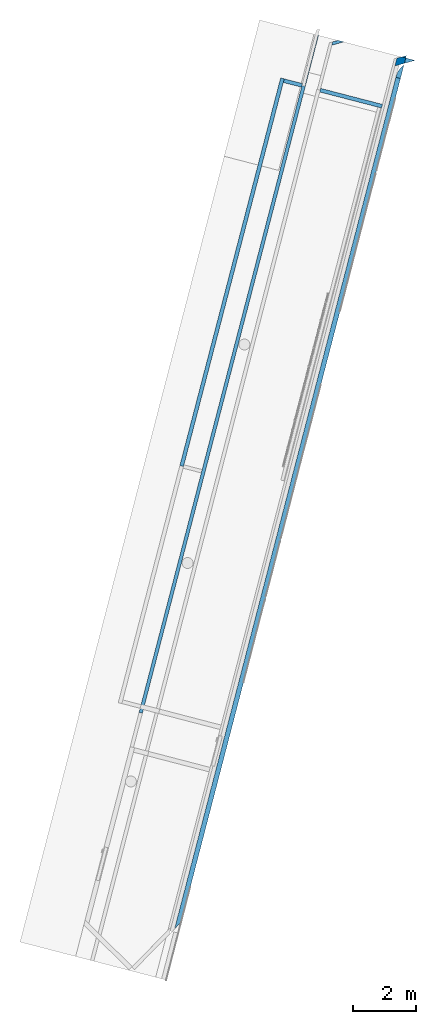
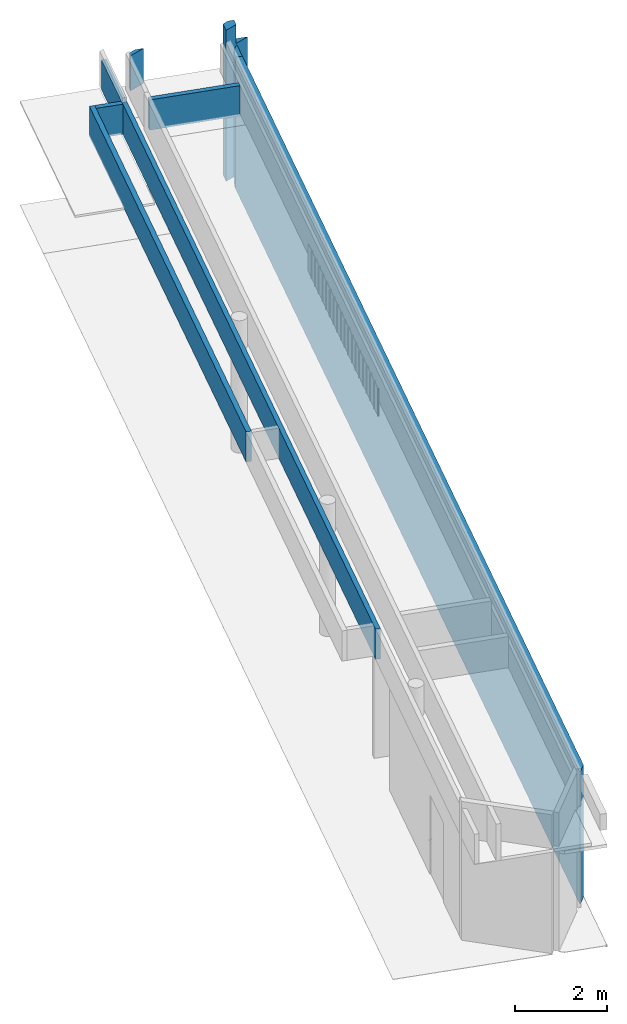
# One storey, part 8 of 9: 9 walls.
"""IFC2X3 building model written with IfcOpenShell, lengths in millimetres."""

from ifc_helpers import new_model, entity, si_unit, converted_unit, derived_unit, direction, frame, origin, origin_with_axes, place, context, subcontext, project, spatial, faceted_brep, material, layer, layer_set, type_object, element, save


model = new_model("IFC2X3")

# Units and contexts
plan_context = context("Plan", 3, precision=1e-05, world=origin_with_axes())
model_context = context("Model", 3, precision=0.01, world=origin(), true_north=direction((6.12323399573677e-17, 1.0)))
body_context = subcontext(model_context, "Body", "Model", "MODEL_VIEW")
ifc_project = project(units=[converted_unit("PLANEANGLEUNIT", "DEGREE", entity("IfcPositiveLengthMeasure", 0.0174532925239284), si_unit("PLANEANGLEUNIT", "RADIAN"), dimensions=[0, 0, 0, 0, 0, 0, 0]), si_unit("AREAUNIT", "SQUARE_METRE"), si_unit("LENGTHUNIT", "METRE", prefix="MILLI"), si_unit("MASSUNIT", "GRAM", prefix="KILO"), si_unit("POWERUNIT", "WATT"), si_unit("PRESSUREUNIT", "PASCAL", prefix="KILO"), si_unit("FORCEUNIT", "NEWTON", prefix="KILO"), si_unit("ELECTRICVOLTAGEUNIT", "VOLT"), si_unit("ELECTRICCURRENTUNIT", "AMPERE"), si_unit("THERMODYNAMICTEMPERATUREUNIT", "DEGREE_CELSIUS"), si_unit("TIMEUNIT", "SECOND"), si_unit("VOLUMEUNIT", "CUBIC_METRE"), derived_unit("LINEARVELOCITYUNIT", [(si_unit("LENGTHUNIT", "METRE"), 1), (si_unit("TIMEUNIT", "SECOND"), -1)]), derived_unit("VOLUMETRICFLOWRATEUNIT", [(si_unit("VOLUMEUNIT", "CUBIC_METRE"), 1), (si_unit("TIMEUNIT", "SECOND"), -1)]), derived_unit("THERMALTRANSMITTANCEUNIT", [(si_unit("POWERUNIT", "WATT"), 1), (si_unit("THERMODYNAMICTEMPERATUREUNIT", "KELVIN"), -1), (si_unit("AREAUNIT", "SQUARE_METRE"), -1)]), derived_unit("SOUNDPRESSUREUNIT", [(si_unit("PRESSUREUNIT", "PASCAL"), 1)])], contexts=[model_context, plan_context])

# Site, building, storey
site_placement = place(None, frame((0.0, -2.21771188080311e-09, 0.0), z_axis=(0.0, 0.0, 1.0), x_axis=(0.266093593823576, -0.963947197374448, 0.0)))
site = spatial("IfcSite", under=ifc_project, at=site_placement, Name="ENZV", CompositionType="ELEMENT")
building_placement = place(site_placement, origin_with_axes())
building = spatial("IfcBuilding", under=site, at=building_placement, Name="ZV001", CompositionType="ELEMENT")
storey_placement = place(building_placement, frame((0.0, 0.0, 5100.0), z_axis=(0.0, 0.0, 1.0), x_axis=(1.0, 0.0, 0.0)))
storey = spatial("IfcBuildingStorey", under=building, at=storey_placement, Name="H01", CompositionType="ELEMENT", Elevation=5100.0)

# Walls
ifc_material_1 = material(Name="Vegg")
ifc_layer_1 = layer(ifc_material_1, 150.0)
ifc_layer_set_1 = layer_set([ifc_layer_1], Name="Basic Wall:Standard - 150mm")
wall_type_1 = type_object("IfcWallType", Name="Basic Wall:Standard - 150mm", PredefinedType="STANDARD", material=ifc_layer_set_1)
wall_1_placement = place(storey_placement, frame((-180207.693786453, 392925.491296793, 0.0), z_axis=(0.0, 0.0, 1.0), x_axis=(1.0, 0.0, 0.0)))
element("IfcWall", 1, at=wall_1_placement, inside=storey, type_object=wall_type_1, Name="Basic Wall:Standard - 150mm", ObjectType="Basic Wall:Standard - 150mm", context=body_context, shape_type="Brep", body=[
    faceted_brep([(-349.281584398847, 286.986316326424, 0.0), (-349.281584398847, 286.986316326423, 3500.0), (-332.567934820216, 241.311855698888, 3500.0), (-332.567934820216, 241.311855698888, 0.0), (-279.127894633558, 147.323870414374, 3500.0), (-279.127894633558, 147.323870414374, 0.0), (-210.874925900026, 63.472146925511, 3500.0), (-210.874925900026, 63.472146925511, 0.0), (-129.690091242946, -7.93234799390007, 3500.0), (-129.690091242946, -7.93234799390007, 0.0), (-37.8108575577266, -64.9216951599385, 3500.0), (-37.8108575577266, -64.9216951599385, 0.0), (33.1661174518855, 66.1956710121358, 3500.0), (33.1661174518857, 66.1956710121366, 0.0)], [[[0, 1, 2, 3]], [[2, 4, 5, 3]], [[4, 6, 7, 5]], [[6, 8, 9, 7]], [[8, 10, 11, 9]], [[10, 12, 13, 11]], [[13, 0, 3, 5, 7, 9, 11]], [[1, 0, 13, 12]], [[12, 10, 8, 6, 4, 2, 1]]], orient=[[False], [False], [False], [False], [False], [False], [False], [False], [False]]),
])
wall_2_placement = place(storey_placement, frame((-155820.043986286, 378845.126193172, 0.0), z_axis=(0.0, 0.0, 1.0), x_axis=(-0.866025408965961, 0.499999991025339, 0.0)))
element("IfcWall", 2, at=wall_2_placement, inside=storey, type_object=wall_type_1, Name="Basic Wall:Standard - 150mm", ObjectType="Basic Wall:Standard - 150mm", context=body_context, shape_type="Brep", body=[
    faceted_brep([(28164.9083166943, -75.0, 3500.0), (28160.7911337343, 75.0, 3500.0), (28160.7911337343, 75.0, 0.0), (28164.9083166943, -75.0, 0.0), (97.9615344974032, 75.0, 3500.0), (97.9688974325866, 75.0000000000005, 2175.0), (99.5047333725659, 75.0000000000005, 2175.0), (99.5047333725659, 75.0000000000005, 975.0), (97.9688974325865, 75.0000000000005, 975.0), (97.9688974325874, 75.0, 0.0), (97.9604826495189, 75.0, 3500.0), (357.768422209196, -74.9995798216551, 3500.0), (357.770690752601, -74.9966385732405, 0.0), (97.9604826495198, 75.0, 0.0), (99.5047333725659, 74.1132846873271, 2175.0), (99.5047333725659, 74.1132846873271, 975.0), (97.9604826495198, 75.0, 2175.0), (97.9604826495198, 75.0, 975.0)], [[[0, 1, 2, 3]], [[1, 4, 5, 6, 7, 8, 9, 2]], [[10, 11, 12, 13], [14, 5, 8, 15]], [[11, 0, 3, 12]], [[3, 2, 13, 12]], [[6, 16, 14]], [[7, 6, 14, 15]], [[7, 15, 17]], [[11, 4, 1, 0]]], orient=[[False], [False], [False, False], [False], [False], [False], [False], [False], [False]]),
])
ifc_layer_2 = layer(ifc_material_1, 220.0)
ifc_layer_set_2 = layer_set([ifc_layer_2], Name="Basic Wall:Standard - 220mm")
wall_type_2 = type_object("IfcWallType", Name="Basic Wall:Standard - 220mm", PredefinedType="STANDARD", material=ifc_layer_set_2)
wall_3_placement = place(storey_placement, frame((-180714.961568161, 392927.065834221, 0.0), z_axis=(0.0, 0.0, 1.0), x_axis=(7.37527737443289e-05, 0.999999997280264, 0.0)))
element("IfcWall", 3, at=wall_3_placement, inside=storey, type_object=wall_type_2, Name="Basic Wall:Standard - 220mm", ObjectType="Basic Wall:Standard - 220mm", context=body_context, shape_type="Brep", body=[
    faceted_brep([(313.109442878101, -110.0, 4000.0), (313.109442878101, -110.0, 3500.0), (667.285582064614, -110.0, 3500.0), (667.285582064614, -110.0, 0.0), (0.0, -110.0, 0.0), (0.0, -110.0, 4000.0), (440.095873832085, 110.0, 0.0), (440.095873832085, 110.0, 3500.0), (286.14249743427, 110.0, 3500.0), (286.142497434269, 110.0, 4000.0), (126.986430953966, 110.0, 4000.0), (126.986430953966, 110.0, 0.0), (401.621451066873, 43.3442719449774, 0.0), (401.621451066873, 43.3442719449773, 4000.0), (401.621451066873, 43.3442719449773, 3500.0)], [[[0, 1, 2, 3, 4, 5]], [[6, 7, 8, 9, 10, 11]], [[11, 10, 5, 4]], [[3, 12, 6, 11, 4]], [[9, 13, 0, 5, 10]], [[1, 0, 13, 14]], [[13, 9, 8, 14]], [[7, 6, 12, 14]], [[8, 7, 14]], [[12, 3, 2, 14]], [[2, 1, 14]]], orient=[[False], [False], [False], [False], [False], [False], [False], [False], [False], [False], [False]]),
])
ifc_material_2 = material(Name="A246.Gips 12.5mm fiberarmert -QK5.31112")
ifc_layer_3 = layer(ifc_material_2, 12.0)
ifc_material_3 = material(Name="Stender/Isolasjon")
ifc_layer_4 = layer(ifc_material_3, 98.0)
ifc_layer_set_3 = layer_set([ifc_layer_3, ifc_layer_4], Name="Basic Wall:Skjørt mellombygg")
wall_type_3 = type_object("IfcWallType", Name="Basic Wall:Skjørt mellombygg", PredefinedType="STANDARD", material=ifc_layer_set_3)
wall_4_placement = place(storey_placement, frame((-180768.169691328, 389954.019936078, 2700.0), z_axis=(0.0, 0.0, 1.0), x_axis=(-0.866025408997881, 0.499999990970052, 0.0)))
element("IfcWall", 4, at=wall_4_placement, inside=storey, type_object=wall_type_3, Name="Basic Wall:Skjørt mellombygg", ObjectType="Basic Wall:Skjørt mellombygg", context=body_context, shape_type="Brep", body=[
    faceted_brep([(1678.6770660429, 54.9999999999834, 0.0), (1678.68377845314, 54.9999999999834, 800.0), (0.0, 54.9999999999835, 800.0), (0.0, 54.9999999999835, 0.0), (0.0, -54.9999999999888, 800.0), (0.0, -54.9999999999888, 0.0), (1678.68377845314, -54.9999999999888, 800.0), (1678.67990590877, -54.9999999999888, 4.2632564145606e-14), (1678.68377845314, 54.9999999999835, 0.0), (1678.68377845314, -54.9999999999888, 0.0), (1678.6791798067, -54.9999999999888, 800.0), (1678.67580746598, 54.9999999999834, 800.0)], [[[0, 1, 2, 3]], [[2, 4, 5, 3]], [[4, 6, 7, 5]], [[7, 0, 3, 5]], [[1, 8, 9, 6]], [[10, 4, 2, 11]]], orient=[[False], [False], [False], [False], [False], [False]]),
])
wall_5_placement = place(storey_placement, frame((-162875.425935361, 379623.864564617, 2700.0), z_axis=(0.0, 0.0, 1.0), x_axis=(-0.866025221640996, 0.500000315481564, 0.0)))
element("IfcWall", 5, at=wall_5_placement, inside=storey, type_object=wall_type_3, Name="Basic Wall:Skjørt mellombygg", ObjectType="Basic Wall:Skjørt mellombygg", context=body_context, shape_type="Brep", body=[
    faceted_brep([(20660.6484351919, -54.9999999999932, 800.0), (20660.6484351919, 55.0000000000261, 800.0), (20660.6484351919, 55.0000000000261, 0.0), (20660.6484351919, -54.9999999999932, 0.0), (1.2732925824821e-11, 55.0000000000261, 800.0), (1.2732925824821e-11, 55.0000000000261, 0.0), (1.2732925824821e-11, -54.9999999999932, 800.0), (1.2732925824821e-11, -54.9999999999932, 0.0)], [[[0, 1, 2, 3]], [[1, 4, 5, 2]], [[4, 6, 7, 5]], [[6, 0, 3, 7]], [[3, 2, 5, 7]], [[6, 4, 1, 0]]], orient=[[False], [False], [False], [False], [False], [False]]),
])
ifc_layer_5 = layer(ifc_material_2, 13.0)
ifc_material_4 = material(Name="OSB plate")
ifc_layer_6 = layer(ifc_material_4, 12.0)
ifc_material_5 = material(Name="A242.Stender Lettmetall 95mm -PJ3.111002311")
ifc_layer_7 = layer(ifc_material_5, 70.0)
ifc_layer_set_4 = layer_set([ifc_layer_5, ifc_layer_6, ifc_layer_7], Name="Basic Wall:ENZV_S-UK01_S70_95mm_OSBG ensidig")
wall_type_4 = type_object("IfcWallType", Name="Basic Wall:ENZV_S-UK01_S70_95mm_OSBG ensidig", PredefinedType="STANDARD", material=ifc_layer_set_4)
wall_6_placement = place(storey_placement, frame((-181825.761437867, 391164.993845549, 2700.0), z_axis=(0.0, 0.0, 1.0), x_axis=(0.0, 1.0, 0.0)))
element("IfcWall", 6, at=wall_6_placement, inside=storey, type_object=wall_type_4, Name="Basic Wall:ENZV_S-UK01_S70_95mm_OSBG ensidig", ObjectType="Basic Wall:ENZV_S-UK01_S70_95mm_OSBG ensidig", context=body_context, shape_type="Brep", body=[
    faceted_brep([(396.905283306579, -47.4999999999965, 930.0), (396.905283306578, -47.4999999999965, 0.0), (6.82121026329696e-13, -47.4999999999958, 0.0), (6.82121026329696e-13, -47.4999999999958, 930.0), (232.34880210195, 47.5000000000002, 0.0), (232.34880210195, 47.5000000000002, 930.0), (54.7773476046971, 47.5000000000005, 930.0), (54.7773476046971, 47.5000000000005, 0.0)], [[[0, 1, 2, 3]], [[4, 5, 6, 7]], [[7, 6, 3, 2]], [[1, 4, 7, 2]], [[5, 0, 3, 6]], [[5, 4, 1, 0]]], orient=[[False], [False], [False], [False], [False], [False]]),
])
ifc_layer_8 = layer(ifc_material_2, 13.0)
ifc_layer_9 = layer(ifc_material_4, 12.0)
ifc_layer_10 = layer(ifc_material_5, 70.0)
ifc_layer_11 = layer(ifc_material_4, 12.0)
ifc_layer_12 = layer(ifc_material_2, 13.0)
ifc_layer_set_5 = layer_set([ifc_layer_8, ifc_layer_9, ifc_layer_10, ifc_layer_11, ifc_layer_12], Name="Basic Wall:ENZV_S-UK01B_S70_120mm_OSBG tosidig")
wall_type_5 = type_object("IfcWallType", Name="Basic Wall:ENZV_S-UK01B_S70_120mm_OSBG tosidig", PredefinedType="STANDARD", material=ifc_layer_set_5)
wall_7_placement = place(storey_placement, frame((-181177.236354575, 389364.771130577, 2700.0), z_axis=(0.0, 0.0, 1.0), x_axis=(0.865987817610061, -0.500065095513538, 0.0)))
element("IfcWall", 7, at=wall_7_placement, inside=storey, type_object=wall_type_5, Name="Basic Wall:ENZV_S-UK01B_S70_120mm_OSBG tosidig", ObjectType="Basic Wall:ENZV_S-UK01B_S70_120mm_OSBG tosidig", context=body_context, shape_type="Brep", body=[
    faceted_brep([(0.0762367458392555, -60.0, 800.0), (12775.2332220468, -60.0, 800.0), (12775.2332220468, -60.0, 0.0), (0.0762367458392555, -60.0, 0.0), (12775.2332220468, 60.0, 800.0), (12775.2332220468, 60.0, 0.0), (0.0, 60.0, 800.0), (0.0, 60.0, 0.0)], [[[0, 1, 2, 3]], [[1, 4, 5, 2]], [[4, 6, 7, 5]], [[6, 0, 3, 7]], [[3, 2, 5, 7]], [[6, 4, 1, 0]]], orient=[[False], [False], [False], [False], [False], [False]]),
])
wall_8_placement = place(storey_placement, frame((-179476.886058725, 392189.244824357, 2700.0), z_axis=(0.0, 0.0, 1.0), x_axis=(-0.499514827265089, -0.866305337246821, 0.0)))
element("IfcWall", 8, at=wall_8_placement, inside=storey, type_object=wall_type_5, Name="Basic Wall:ENZV_S-UK01B_S70_120mm_OSBG tosidig", ObjectType="Basic Wall:ENZV_S-UK01B_S70_120mm_OSBG tosidig", context=body_context, shape_type="Brep", body=[
    faceted_brep([(0.0, -60.0, 800.0), (2036.84755233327, -60.0, 800.0), (2036.84755233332, -60.0, 0.0), (0.0, -60.0, 0.0), (2036.84755233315, 60.0, 800.0), (0.063536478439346, 60.0, 800.0), (0.063536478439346, 60.0, 0.0), (2036.8475523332, 60.0, 0.0), (2036.84755233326, 0.0, 0.0)], [[[0, 1, 2, 3]], [[4, 5, 6, 7]], [[8, 7, 6, 3, 2]], [[5, 0, 3, 6]], [[1, 4, 7, 2]], [[5, 4, 1, 0]]], orient=[[False], [False], [False], [False], [False], [False]]),
])
wall_9_placement = place(storey_placement, frame((-180795.626223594, 389906.402249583, 2700.0), z_axis=(0.0, 0.0, 1.0), x_axis=(-0.499514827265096, -0.866305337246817, 0.0)))
element("IfcWall", 9, at=wall_9_placement, inside=storey, type_object=wall_type_5, Name="Basic Wall:ENZV_S-UK01B_S70_120mm_OSBG tosidig", ObjectType="Basic Wall:ENZV_S-UK01B_S70_120mm_OSBG tosidig", context=body_context, shape_type="Brep", body=[
    faceted_brep([(0.0, -60.0, 800.0), (599.83785998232, -60.0, 800.0), (599.83785998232, -60.0, 0.0), (0.0, -60.0, 0.0), (599.914096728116, 60.0, 800.0), (599.914096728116, 60.0, 0.0), (0.0672153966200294, 60.0, 800.0), (0.0672153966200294, 60.0, 0.0)], [[[0, 1, 2, 3]], [[1, 4, 5, 2]], [[4, 6, 7, 5]], [[6, 0, 3, 7]], [[3, 2, 5, 7]], [[6, 4, 1, 0]]], orient=[[False], [False], [False], [False], [False], [False]]),
])

save(model, "model.ifc")
